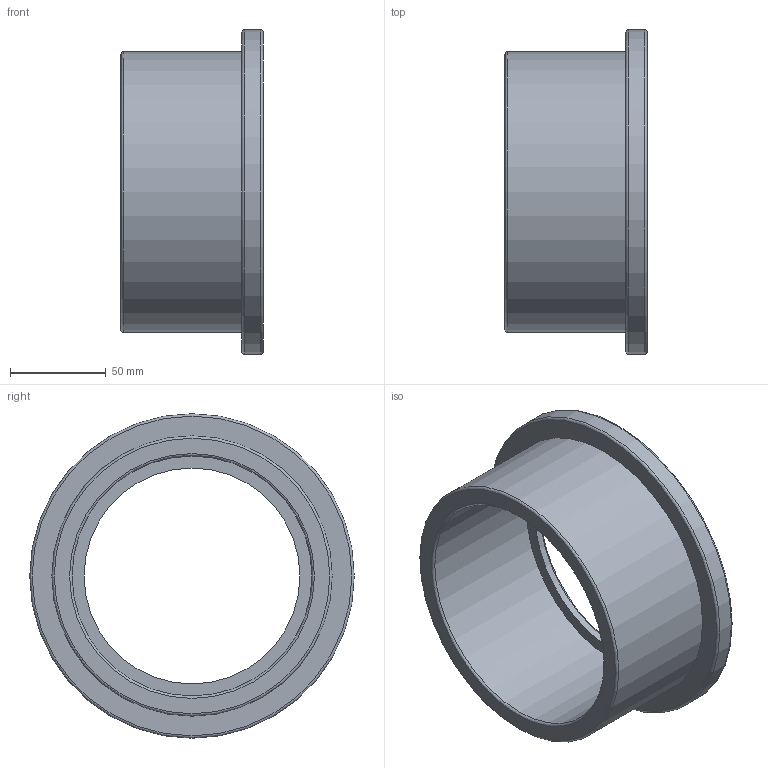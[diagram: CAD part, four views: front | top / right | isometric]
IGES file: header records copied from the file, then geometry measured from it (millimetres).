
Global section: file name: 055100125.ipt; native system: Autodesk Inventor 2015; preprocessor: unknown; author: KIM; date: 20180927.115432; units: millimetre
Bounding box: 74 x 169 x 169 mm (x, y, z)
Volume: 404249 mm3; surface area: 87366.3 mm2
Topology: 1 solids, 1 shells, 13 faces, 36 edges, 27 vertices
Faces by surface type: revolution 7, plane 4, cylinder 2
Full cylindrical faces by diameter (mm): 146 x1, 169 x1
